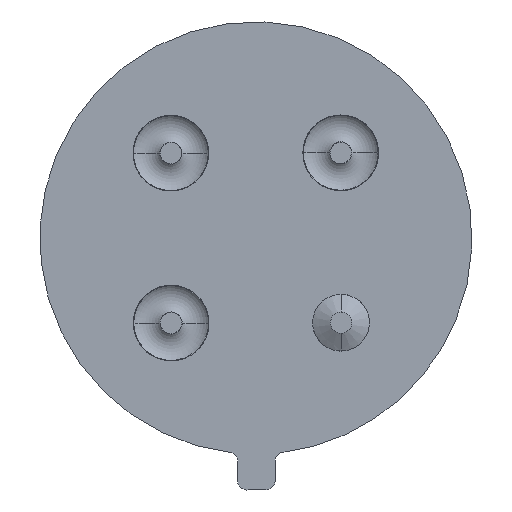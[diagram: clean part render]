
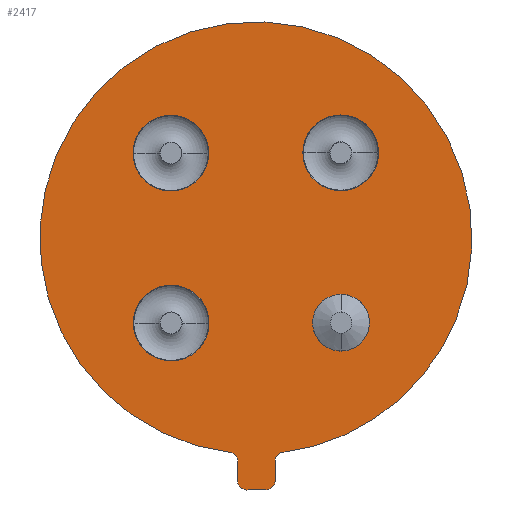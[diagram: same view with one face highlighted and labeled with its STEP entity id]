
A CAD part, front view. The second image highlights one B-rep face of the part: STEP entity #2417.
In plain terms, the highlighted planar face has unit normal (0, -1, 0).
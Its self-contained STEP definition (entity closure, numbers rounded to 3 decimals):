
#1915=CARTESIAN_POINT('',(0.,0.,0.));
#1916=DIRECTION('',(0.,-1.,0.));
#1917=DIRECTION('',(0.,0.,1.));
#1918=AXIS2_PLACEMENT_3D('',#1915,#1916,#1917);
#1920=CARTESIAN_POINT('',(0.,0.,0.));
#1921=DIRECTION('',(0.,-1.,0.));
#1922=DIRECTION('',(0.,0.,-1.));
#1923=AXIS2_PLACEMENT_3D('',#1920,#1921,#1922);
#1925=CARTESIAN_POINT('',(0.,0.,0.));
#1926=DIRECTION('',(0.,-1.,0.));
#1927=DIRECTION('',(-0.874,0.,-0.486));
#1928=AXIS2_PLACEMENT_3D('',#1925,#1926,#1927);
#1930=CARTESIAN_POINT('',(-4.135,0.,-2.362));
#1931=DIRECTION('',(0.,1.,0.));
#1932=DIRECTION('',(0.,0.,1.));
#1933=AXIS2_PLACEMENT_3D('',#1930,#1931,#1932);
#1935=CARTESIAN_POINT('',(-4.135,0.,-2.362));
#1936=DIRECTION('',(0.,1.,0.));
#1937=DIRECTION('',(-0.382,0.,0.924));
#1938=AXIS2_PLACEMENT_3D('',#1935,#1936,#1937);
#1940=DIRECTION('',(0.924,0.,0.382));
#1941=VECTOR('',#1940,0.406);
#1942=CARTESIAN_POINT('',(-4.586,0.,-2.333));
#1943=LINE('',#1942,#1941);
#1944=CARTESIAN_POINT('',(-4.663,0.,-2.148));
#1945=DIRECTION('',(0.,-1.,0.));
#1946=DIRECTION('',(0.,0.,-1.));
#1947=AXIS2_PLACEMENT_3D('',#1944,#1945,#1946);
#1949=CARTESIAN_POINT('',(-4.663,0.,-2.148));
#1950=DIRECTION('',(0.,-1.,0.));
#1951=DIRECTION('',(-0.924,0.,-0.383));
#1952=AXIS2_PLACEMENT_3D('',#1949,#1950,#1951);
#1954=DIRECTION('',(0.383,0.,-0.924));
#1955=VECTOR('',#1954,0.399);
#1956=CARTESIAN_POINT('',(-5.,0.,-1.856));
#1957=LINE('',#1956,#1955);
#1958=CARTESIAN_POINT('',(-4.816,0.,-1.78));
#1959=DIRECTION('',(0.,-1.,0.));
#1960=DIRECTION('',(-0.376,0.,0.927));
#1961=AXIS2_PLACEMENT_3D('',#1958,#1959,#1960);
#1963=DIRECTION('',(-0.927,0.,-0.376));
#1964=VECTOR('',#1963,0.403);
#1965=CARTESIAN_POINT('',(-4.517,0.,-1.443));
#1966=LINE('',#1965,#1964);
#1967=CARTESIAN_POINT('',(-4.592,0.,-1.257));
#1968=DIRECTION('',(0.,1.,0.));
#1969=DIRECTION('',(1.,0.,-0.022));
#1970=AXIS2_PLACEMENT_3D('',#1967,#1968,#1969);
#1972=CARTESIAN_POINT('',(-0.972,0.,-2.347));
#1973=DIRECTION('',(0.,1.,0.));
#1974=DIRECTION('',(0.,0.,1.));
#1975=AXIS2_PLACEMENT_3D('',#1972,#1973,#1974);
#1977=CARTESIAN_POINT('',(-0.972,0.,-2.347));
#1978=DIRECTION('',(0.,1.,0.));
#1979=DIRECTION('',(0.,0.,-1.));
#1980=AXIS2_PLACEMENT_3D('',#1977,#1978,#1979);
#1982=CARTESIAN_POINT('',(0.972,0.,2.347));
#1983=DIRECTION('',(0.,1.,0.));
#1984=DIRECTION('',(0.,0.,1.));
#1985=AXIS2_PLACEMENT_3D('',#1982,#1983,#1984);
#1987=CARTESIAN_POINT('',(0.972,0.,2.347));
#1988=DIRECTION('',(0.,1.,0.));
#1989=DIRECTION('',(0.,0.,-1.));
#1990=AXIS2_PLACEMENT_3D('',#1987,#1988,#1989);
#1992=CARTESIAN_POINT('',(2.347,0.,-0.972));
#1993=DIRECTION('',(0.,1.,0.));
#1994=DIRECTION('',(0.,0.,1.));
#1995=AXIS2_PLACEMENT_3D('',#1992,#1993,#1994);
#1997=CARTESIAN_POINT('',(2.347,0.,-0.972));
#1998=DIRECTION('',(0.,1.,0.));
#1999=DIRECTION('',(0.,0.,-1.));
#2000=AXIS2_PLACEMENT_3D('',#1997,#1998,#1999);
#2002=CARTESIAN_POINT('',(-2.347,0.,0.972));
#2003=DIRECTION('',(0.,1.,0.));
#2004=DIRECTION('',(0.,0.,1.));
#2005=AXIS2_PLACEMENT_3D('',#2002,#2003,#2004);
#2007=CARTESIAN_POINT('',(-2.347,0.,0.972));
#2008=DIRECTION('',(0.,1.,0.));
#2009=DIRECTION('',(0.,0.,-1.));
#2010=AXIS2_PLACEMENT_3D('',#2007,#2008,#2009);
#2158=CARTESIAN_POINT('',(-0.972,0.,-2.947));
#2160=VERTEX_POINT('',#2158);
#2166=CARTESIAN_POINT('',(0.972,0.,3.147));
#2168=VERTEX_POINT('',#2166);
#2174=CARTESIAN_POINT('',(0.972,0.,1.547));
#2175=VERTEX_POINT('',#2174);
#2183=CARTESIAN_POINT('',(-4.517,0.,-1.443));
#2185=VERTEX_POINT('',#2183);
#2190=CARTESIAN_POINT('',(2.347,0.,-0.172));
#2191=VERTEX_POINT('',#2190);
#2192=CARTESIAN_POINT('',(-0.972,0.,-1.747));
#2193=VERTEX_POINT('',#2192);
#2194=CARTESIAN_POINT('',(2.347,0.,-1.772));
#2195=VERTEX_POINT('',#2194);
#2200=CARTESIAN_POINT('',(-2.347,0.,1.772));
#2201=VERTEX_POINT('',#2200);
#2206=CARTESIAN_POINT('',(-4.392,0.,-1.262));
#2208=VERTEX_POINT('',#2206);
#2210=CARTESIAN_POINT('',(-2.347,0.,0.172));
#2211=VERTEX_POINT('',#2210);
#2212=CARTESIAN_POINT('',(-3.995,0.,-2.219));
#2214=VERTEX_POINT('',#2212);
#2223=CARTESIAN_POINT('',(0.,0.,-4.57));
#2225=VERTEX_POINT('',#2223);
#2230=CARTESIAN_POINT('',(-4.663,0.,-2.348));
#2231=VERTEX_POINT('',#2230);
#2232=CARTESIAN_POINT('',(-5.,0.,-1.856));
#2233=VERTEX_POINT('',#2232);
#2234=CARTESIAN_POINT('',(-4.848,0.,-2.225));
#2235=VERTEX_POINT('',#2234);
#2236=CARTESIAN_POINT('',(-4.211,0.,-2.177));
#2237=VERTEX_POINT('',#2236);
#2238=CARTESIAN_POINT('',(-4.891,0.,-1.594));
#2239=VERTEX_POINT('',#2238);
#2243=CARTESIAN_POINT('',(0.,0.,4.57));
#2245=VERTEX_POINT('',#2243);
#2248=CARTESIAN_POINT('',(-4.586,0.,-2.333));
#2249=VERTEX_POINT('',#2248);
#2252=CARTESIAN_POINT('',(-4.135,0.,-2.162));
#2253=VERTEX_POINT('',#2252);
#2363=CARTESIAN_POINT('',(0.,0.,0.));
#2364=DIRECTION('',(0.,-1.,0.));
#2365=DIRECTION('',(0.,0.,-1.));
#2366=AXIS2_PLACEMENT_3D('',#2363,#2364,#2365);
#2367=PLANE('',#2366);
#2368=ORIENTED_EDGE('',*,*,#2353,.F.);
#2370=ORIENTED_EDGE('',*,*,#2369,.F.);
#2372=ORIENTED_EDGE('',*,*,#2371,.F.);
#2374=ORIENTED_EDGE('',*,*,#2373,.F.);
#2376=ORIENTED_EDGE('',*,*,#2375,.F.);
#2378=ORIENTED_EDGE('',*,*,#2377,.F.);
#2380=ORIENTED_EDGE('',*,*,#2379,.F.);
#2382=ORIENTED_EDGE('',*,*,#2381,.F.);
#2384=ORIENTED_EDGE('',*,*,#2383,.F.);
#2386=ORIENTED_EDGE('',*,*,#2385,.F.);
#2388=ORIENTED_EDGE('',*,*,#2387,.F.);
#2390=ORIENTED_EDGE('',*,*,#2389,.F.);
#2391=EDGE_LOOP('',(#2368,#2370,#2372,#2374,#2376,#2378,#2380,#2382,#2384,#2386,
#2388,#2390));
#2392=FACE_OUTER_BOUND('',#2391,.F.);
#2394=ORIENTED_EDGE('',*,*,#2393,.F.);
#2396=ORIENTED_EDGE('',*,*,#2395,.F.);
#2397=EDGE_LOOP('',(#2394,#2396));
#2398=FACE_BOUND('',#2397,.F.);
#2400=ORIENTED_EDGE('',*,*,#2399,.F.);
#2402=ORIENTED_EDGE('',*,*,#2401,.F.);
#2403=EDGE_LOOP('',(#2400,#2402));
#2404=FACE_BOUND('',#2403,.F.);
#2406=ORIENTED_EDGE('',*,*,#2405,.F.);
#2408=ORIENTED_EDGE('',*,*,#2407,.F.);
#2409=EDGE_LOOP('',(#2406,#2408));
#2410=FACE_BOUND('',#2409,.F.);
#2412=ORIENTED_EDGE('',*,*,#2411,.F.);
#2414=ORIENTED_EDGE('',*,*,#2413,.F.);
#2415=EDGE_LOOP('',(#2412,#2414));
#2416=FACE_BOUND('',#2415,.F.);
#1919=CIRCLE('',#1918,4.57);
#1924=CIRCLE('',#1923,4.57);
#1929=CIRCLE('',#1928,4.57);
#1934=CIRCLE('',#1933,0.2);
#1939=CIRCLE('',#1938,0.2);
#1948=CIRCLE('',#1947,0.2);
#1953=CIRCLE('',#1952,0.2);
#1962=CIRCLE('',#1961,0.2);
#1971=CIRCLE('',#1970,0.2);
#1976=CIRCLE('',#1975,0.6);
#1981=CIRCLE('',#1980,0.6);
#1986=CIRCLE('',#1985,0.8);
#1991=CIRCLE('',#1990,0.8);
#1996=CIRCLE('',#1995,0.8);
#2001=CIRCLE('',#2000,0.8);
#2006=CIRCLE('',#2005,0.8);
#2011=CIRCLE('',#2010,0.8);
#2353=EDGE_CURVE('',#2245,#2208,#1919,.T.);
#2369=EDGE_CURVE('',#2225,#2245,#1924,.T.);
#2371=EDGE_CURVE('',#2214,#2225,#1929,.T.);
#2373=EDGE_CURVE('',#2253,#2214,#1934,.T.);
#2375=EDGE_CURVE('',#2237,#2253,#1939,.T.);
#2377=EDGE_CURVE('',#2249,#2237,#1943,.T.);
#2379=EDGE_CURVE('',#2231,#2249,#1948,.T.);
#2381=EDGE_CURVE('',#2235,#2231,#1953,.T.);
#2383=EDGE_CURVE('',#2233,#2235,#1957,.T.);
#2385=EDGE_CURVE('',#2239,#2233,#1962,.T.);
#2387=EDGE_CURVE('',#2185,#2239,#1966,.T.);
#2389=EDGE_CURVE('',#2208,#2185,#1971,.T.);
#2393=EDGE_CURVE('',#2193,#2160,#1976,.T.);
#2395=EDGE_CURVE('',#2160,#2193,#1981,.T.);
#2399=EDGE_CURVE('',#2168,#2175,#1986,.T.);
#2401=EDGE_CURVE('',#2175,#2168,#1991,.T.);
#2405=EDGE_CURVE('',#2191,#2195,#1996,.T.);
#2407=EDGE_CURVE('',#2195,#2191,#2001,.T.);
#2411=EDGE_CURVE('',#2201,#2211,#2006,.T.);
#2413=EDGE_CURVE('',#2211,#2201,#2011,.T.);
#2417=ADVANCED_FACE('',(#2392,#2398,#2404,#2410,#2416),#2367,.T.);
